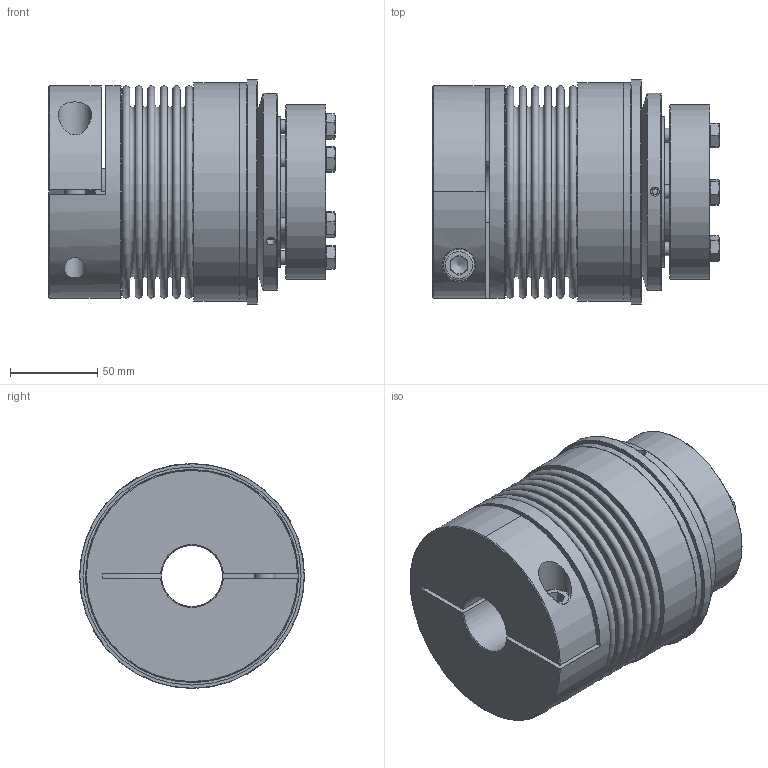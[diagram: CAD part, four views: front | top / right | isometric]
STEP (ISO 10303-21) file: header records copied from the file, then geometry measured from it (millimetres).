
FILE_DESCRIPTION( ( 'Unknown' ), '1' );
FILE_NAME( 'C:/Users/skarpstein/Desktop/Korrigierte 3D Modelle/KBK-B-KA/KBK-BKA-500-165.stp', 'Unknown', ( 'Unknown' ), ( 'Unknown' ), 'PSStep 16.0.42', 'Unknown', ' ' );
FILE_SCHEMA( ( 'AUTOMOTIVE_DESIGN { 1 0 10303 214 1 1 1 1 }' ) );
Length unit declared in the file: millimetre
Products named in the file (10): Assem1; Stellring 500_0; Druckring 500_0; Flansch BK500; BL500_Standard_2; KN500_Standard_4; Socket Head Cap Screw_DIN_DIN 912 M12 x 55 --- 55N_4; KBK L-A-500 Grundkörper; Druckring L-A-500; din_en_24017_m8x35
Assembly tree (14 placements, depth 2):
  Assem1
    Stellring 500_0
    Druckring 500_0
    Flansch BK500
    BL500_Standard_2
    KN500_Standard_4
    Socket Head Cap Screw_DIN_DIN 912 M12 x 55 --- 55N_4
    KBK L-A-500 Grundkörper
    Druckring L-A-500
    din_en_24017_m8x35  x6
Bounding box: 164.2 x 129 x 129 mm (x, y, z)
Volume: 1086662.4 mm3; surface area: 329602.1 mm2
Topology: 14 solids, 14 shells, 334 faces, 691 edges, 444 vertices
Faces by surface type: plane 159, cone 79, cylinder 64, torus 32
Full cylindrical faces by diameter (mm): 3.242 x3, 5.1 x3, 5.2 x3, 6.647 x6, 8 x6, 8.5 x6, 11.63 x6, 12 x2, 12.5 x1, 18 x1, 19 x1, 35 x2, 62 x1, 65 x2, 65.111 x1, 80 x1, 86 x2, 90 x1, 100 x1, 104.5 x1, 107.7 x2, 108.9 x2, 113 x1, 114 x1, 122 x1, 125 x2, 129 x1
Entity records: 7805 total; most frequent: CARTESIAN_POINT 1477, DIRECTION 975, ORIENTED_EDGE 654, AXIS2_PLACEMENT_3D 446, EDGE_LOOP 402, EDGE_CURVE 327, FACE_OUTER_BOUND 299, VERTEX_POINT 280
